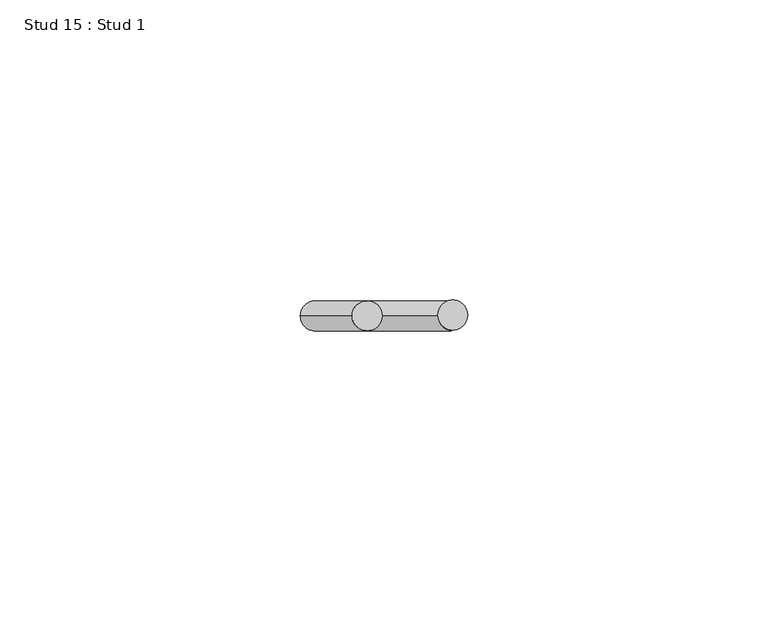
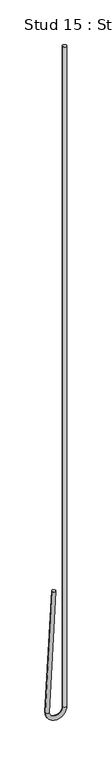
"""IFC4 building model written with IfcOpenShell, lengths in millimetres: proxy geometry, Stud 15 : Stud 1."""

from ifc_helpers import new_model, si_unit, point, frame, origin, place, context, project, spatial, circle_curve, ellipse_curve, trimmed, source, transform, mapped, element, save
from ifc_brep_helpers import plane_surface, cylinder_surface, revolved_surface, advanced_brep


def stud_15_stud_1_7fefd709(model_context):
    return source(origin(), model_context, "Body", "AdvancedBrep", [
        advanced_brep(
        [(-12209.2532788, 7110.5191481, 3640.800192), (-12204.2601311, 7110.5191481, 3640.5385122), (-12217.8939451, 7110.5191481, 3475.9264558), (-12212.9007975, 7110.5191481, 3475.664776), (-12194.9920812, 7110.5191481, 3475.7956159), (-12189.9920812, 7110.5191481, 3475.7956159), (-12189.9920812, 7110.5191481, 4390.1956159), (-12194.9920812, 7110.5191481, 4390.1956159)],
        [
            (0, 1, circle_curve(frame((-12206.7567049, 7110.5191481, 3640.6693521), z_axis=(0.05233595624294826, 0.0, 0.9986295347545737), x_axis=(0.9986295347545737, 0.0, -0.05233595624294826)), 2.5)),
            (1, 0, circle_curve(frame((-12206.7567049, 7110.5191481, 3640.6693521), z_axis=(0.05233595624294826, 0.0, 0.9986295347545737), x_axis=(0.9986295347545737, 0.0, -0.05233595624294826)), 2.5)),
            (0, 2),
            (2, 3, circle_curve(frame((-12215.3973713, 7110.5191481, 3475.7956159), z_axis=(0.05233595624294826, 0.0, 0.9986295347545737), x_axis=(0.9986295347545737, 0.0, -0.05233595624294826)), 2.5)),
            (3, 1),
            (3, 2, circle_curve(frame((-12215.3973713, 7110.5191481, 3475.7956159), z_axis=(0.05233595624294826, 0.0, 0.9986295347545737), x_axis=(0.9986295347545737, 0.0, -0.05233595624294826)), 2.5)),
            (4, 3, circle_curve(frame((-12203.9447263, 7110.5191481, 3475.7956159), z_axis=(0.0, 1.0, 0.0), x_axis=(-1.0, 0.0, 0.0)), 8.952645)),
            (2, 5, circle_curve(frame((-12203.9447263, 7110.5191481, 3475.7956159), z_axis=(0.0, -1.0, 0.0), x_axis=(-1.0, 0.0, 0.0)), 13.952645)),
            (5, 4, circle_curve(frame((-12192.4920812, 7110.5191481, 3475.7956159), z_axis=(0.0, 0.0, -1.0), x_axis=(-1.0, 0.0, 0.0)), 2.5)),
            (4, 5, circle_curve(frame((-12192.4920812, 7110.5191481, 3475.7956159), z_axis=(0.0, 0.0, -1.0), x_axis=(-1.0, 0.0, 0.0)), 2.5)),
            (6, 7, circle_curve(frame((-12192.4920812, 7110.5191481, 4390.1956159), z_axis=(0.0, 0.0, 1.0), x_axis=(-1.0, 0.0, 0.0)), 2.5)),
            (7, 6, circle_curve(frame((-12192.4920812, 7110.5191481, 4390.1956159), z_axis=(0.0, 0.0, 1.0), x_axis=(-1.0, 0.0, 0.0)), 2.5)),
            (5, 6),
            (7, 4),
        ],
        [
            plane_surface(frame((-12206.7567049, 7704.2441481, 3640.6693521), z_axis=(0.05233595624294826, 0.0, 0.9986295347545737), x_axis=(0.0, -1.0, 0.0))),
            cylinder_surface(frame((-12206.7567049, 7110.5191481, 3640.6693521), z_axis=(0.05233595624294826, 0.0, 0.9986295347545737), x_axis=(0.9986295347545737, 0.0, -0.05233595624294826)), 2.5),
            revolved_surface(trimmed(ellipse_curve(frame((-12215.3973713, 7110.5191481, 3475.7956159), z_axis=(0.0, 0.0, 1.0), x_axis=(1.0, 0.0, 0.0)), 2.5, 2.5), [point((-12217.8973713, 7110.5191481, 3475.7956159))], [point((-12212.8973713, 7110.5191481, 3475.7956159))], True, "CARTESIAN"), (-12203.9447263, 7704.2441481, 3475.7956159), (0.0, -1.0, 0.0)),
            revolved_surface(trimmed(ellipse_curve(frame((-12215.3973713, 7110.5191481, 3475.7956159), z_axis=(0.0, 0.0, 1.0), x_axis=(1.0, 0.0, 0.0)), 2.5, 2.5), [point((-12212.8973713, 7110.5191481, 3475.7956159))], [point((-12217.8973713, 7110.5191481, 3475.7956159))], True, "CARTESIAN"), (-12203.9447263, 7704.2441481, 3475.7956159), (0.0, -1.0, 0.0)),
            plane_surface(frame((-12192.4920812, 7704.2441481, 4390.1956159), z_axis=(0.0, 0.0, 1.0), x_axis=(0.0, -1.0, 0.0))),
            cylinder_surface(frame((-12192.4920812, 7110.5191481, 3475.7956159), z_axis=(0.0, 0.0, -1.0), x_axis=(-1.0, 0.0, 0.0)), 2.5),
        ],
        [
            (0, [[1, 2]]),
            (1, [[-1, 3, 4, 5]]),
            (1, [[-2, -5, 6, -3]]),
            (2, [[7, -4, 8, 9]]),
            (3, [[-8, -6, -7, 10]]),
            (4, [[11, 12]]),
            (5, [[-9, 13, -12, 14]]),
            (5, [[-10, -14, -11, -13]]),
        ],
    ),
    ])


if __name__ == "__main__":
    model = new_model("IFC4")
    model_context = context("Model", 3, world=origin())
    ifc_project = project(units=[si_unit("LENGTHUNIT", "METRE", prefix="MILLI")], contexts=[model_context])
    site = spatial("IfcSite", under=ifc_project)
    building = spatial("IfcBuilding", under=site)
    placement = place(None, origin())
    stud_15_stud_1_shape = stud_15_stud_1_7fefd709(model_context)
    element("IfcBuildingElementProxy", 1, Name="Stud 15 : Stud 1", ObjectType="Stud 15 : Stud 1", at=placement, inside=building, context=model_context, shape_type="MappedRepresentation", body=[
        mapped(stud_15_stud_1_shape, transform((0.0, 0.0, 0.0), x_axis=(1.0, 0.0, 0.0), y_axis=(0.0, 1.0, 0.0), z_axis=(0.0, 0.0, 1.0))),
    ])
    save(model, "model.ifc")
